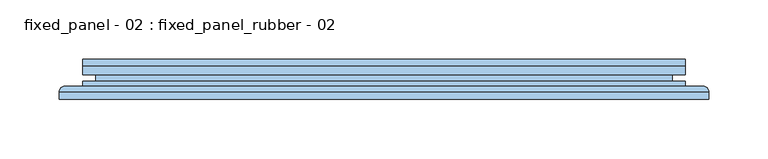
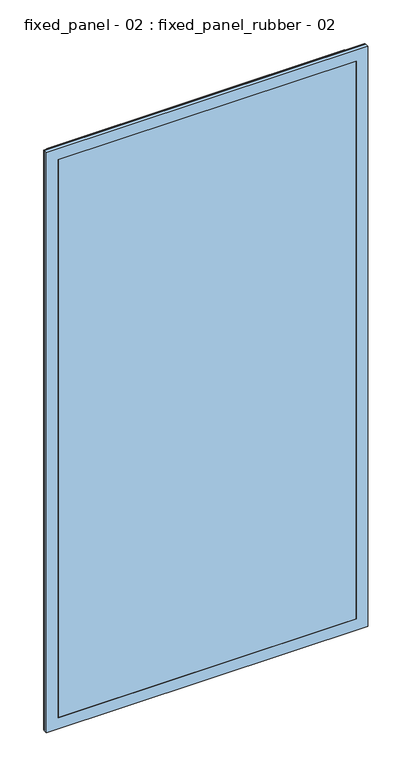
"""IFC4 building model written with IfcOpenShell, lengths in millimetres: window geometry, fixed_panel - 02 : fixed_panel_rubber - 02."""

from ifc_helpers import new_model, si_unit, frame, origin, place, context, project, spatial, polyline, ellipse_curve, outline, extrude, faceted_brep, source, transform, mapped, element, save
from ifc_brep_helpers import plane_surface, cylinder_surface, advanced_brep


def fixed_panel_02_fixed_panel_rubber_02_d23046c7(model_context):
    return source(origin(), model_context, "Body", "SolidModel", [
        advanced_brep(
        [(254.9999306, -27.9878211, 989.9842035), (259.9999306, -22.9878211, 994.9842035), (259.9999306, -22.9878211, -25.0), (254.9999306, -27.9878211, -20.0), (269.9976085, -22.9878211, -34.9976779), (-269.9976085, -22.9878211, -34.9976779), (-269.9976085, -22.9878211, 1004.9818814), (269.9976085, -22.9878211, 1004.9818814), (-259.9999306, -22.9878211, 994.9842035), (-259.9999306, -22.9878211, -25.0), (-254.9999306, -27.9878211, -20.0), (254.9999306, -34.0, 989.9842035), (254.9999306, -34.0, -20.0), (-254.9999306, -34.0, -20.0), (274.9932841, -34.0, 1009.977557), (-274.9932841, -34.0, 1009.977557), (-274.9932841, -34.0, -39.9933535), (274.9932841, -34.0, -39.9933535), (-254.9999306, -34.0, 989.9842035), (274.9932841, -27.9834967, 1009.977557), (274.9932841, -27.9834967, -39.9933535), (-274.9932841, -27.9834967, -39.9933535), (-254.9999306, -27.9878211, 989.9842035), (-274.9932841, -27.9834967, 1009.977557)],
        [
            (0, 1, ellipse_curve(frame((259.9999306, -27.9878211, 994.9842035), z_axis=(0.7071067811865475, 0.0, -0.7071067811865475), x_axis=(0.7071067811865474, 0.0, 0.7071067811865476)), 7.0710678, 5.0)),
            (1, 2),
            (2, 3, ellipse_curve(frame((259.9999306, -27.9878211, -25.0), z_axis=(0.7071067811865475, 0.0, 0.7071067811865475), x_axis=(-0.7071067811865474, 0.0, 0.7071067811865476)), 7.0710678, 5.0)),
            (3, 0),
            (4, 5),
            (5, 6),
            (6, 7),
            (7, 4),
            (1, 8),
            (8, 9),
            (9, 2),
            (9, 10, ellipse_curve(frame((-259.9999306, -27.9878211, -25.0), z_axis=(0.7071067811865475, 0.0, -0.7071067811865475), x_axis=(0.7071067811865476, 0.0, 0.7071067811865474)), 7.0710678, 5.0)),
            (10, 3),
            (11, 0),
            (3, 12),
            (12, 11),
            (10, 13),
            (13, 12),
            (14, 15),
            (15, 16),
            (16, 17),
            (17, 14),
            (13, 18),
            (18, 11),
            (19, 14),
            (17, 20),
            (20, 19),
            (16, 21),
            (21, 20),
            (7, 19, ellipse_curve(frame((269.9976085, -27.9834967, 1004.9818814), z_axis=(0.7071067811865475, 0.0, -0.7071067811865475), x_axis=(0.7071067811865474, 0.0, 0.7071067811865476)), 7.0649521, 4.9956756)),
            (20, 4, ellipse_curve(frame((269.9976085, -27.9834967, -34.9976779), z_axis=(0.7071067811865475, 0.0, 0.7071067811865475), x_axis=(-0.7071067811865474, 0.0, 0.7071067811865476)), 7.0649521, 4.9956756)),
            (21, 5, ellipse_curve(frame((-269.9976085, -27.9834967, -34.9976779), z_axis=(0.7071067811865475, 0.0, -0.7071067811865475), x_axis=(0.7071067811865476, 0.0, 0.7071067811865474)), 7.0649521, 4.9956756)),
            (8, 22, ellipse_curve(frame((-259.9999306, -27.9878211, 994.9842035), z_axis=(-0.7071067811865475, 0.0, -0.7071067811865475), x_axis=(0.7071067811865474, 0.0, -0.7071067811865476)), 7.0710678, 5.0)),
            (22, 10),
            (22, 18),
            (15, 23),
            (23, 21),
            (23, 6, ellipse_curve(frame((-269.9976085, -27.9834967, 1004.9818814), z_axis=(-0.7071067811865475, 0.0, -0.7071067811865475), x_axis=(0.7071067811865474, 0.0, -0.7071067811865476)), 7.0649521, 4.9956756)),
            (0, 22),
            (19, 23),
        ],
        [
            cylinder_surface(frame((259.9999306, -27.9878211, 989.9842035), z_axis=(0.0, 0.0, 1.0), x_axis=(1.0, 0.0, 0.0)), 5.0),
            plane_surface(frame((-269.9976085, -22.9878211, 1004.9818814), z_axis=(0.0, 1.0, 0.0), x_axis=(1.0, 0.0, 0.0))),
            cylinder_surface(frame((254.9999306, -27.9878211, -25.0), z_axis=(1.0, 0.0, 0.0), x_axis=(0.0, 0.0, -1.0)), 5.0),
            plane_surface(frame((254.9999306, -27.9878211, 989.9842035), z_axis=(-1.0, 0.0, 0.0), x_axis=(0.0, 0.0, -1.0))),
            plane_surface(frame((254.9999306, -27.9878211, -20.0), z_axis=(0.0, 0.0, 1.0), x_axis=(-1.0, 0.0, 0.0))),
            plane_surface(frame((-254.9999306, -34.0, 989.9842035), z_axis=(0.0, -1.0, 0.0), x_axis=(1.0, 0.0, 0.0))),
            plane_surface(frame((274.9932841, -34.0, 1009.977557), z_axis=(1.0, 0.0, 0.0), x_axis=(0.0, 0.0, -1.0))),
            plane_surface(frame((274.9932841, -34.0, -39.9933535), z_axis=(0.0, 0.0, -1.0), x_axis=(-1.0, 0.0, 0.0))),
            cylinder_surface(frame((269.9976085, -27.9834967, 989.9842035), z_axis=(0.0, 0.0, 1.0), x_axis=(1.0, 0.0, 0.0)), 4.9956756),
            cylinder_surface(frame((254.9999306, -27.9834967, -34.9976779), z_axis=(1.0, 0.0, 0.0), x_axis=(0.0, 0.0, -1.0)), 4.9956756),
            cylinder_surface(frame((-259.9999306, -27.9878211, -20.0), z_axis=(0.0, 0.0, -1.0), x_axis=(-1.0, 0.0, 0.0)), 5.0),
            plane_surface(frame((-254.9999306, -27.9878211, -20.0), z_axis=(1.0, 0.0, 0.0), x_axis=(0.0, 0.0, 1.0))),
            plane_surface(frame((-274.9932841, -34.0, -39.9933535), z_axis=(-1.0, 0.0, 0.0), x_axis=(0.0, 0.0, 1.0))),
            cylinder_surface(frame((-269.9976085, -27.9834967, -20.0), z_axis=(0.0, 0.0, -1.0), x_axis=(-1.0, 0.0, 0.0)), 4.9956756),
            cylinder_surface(frame((-254.9999306, -27.9878211, 994.9842035), z_axis=(-1.0, 0.0, 0.0), x_axis=(0.0, 0.0, 1.0)), 5.0),
            plane_surface(frame((-254.9999306, -27.9878211, 989.9842035), z_axis=(0.0, 0.0, -1.0), x_axis=(1.0, 0.0, 0.0))),
            plane_surface(frame((-274.9932841, -34.0, 1009.977557), z_axis=(0.0, 0.0, 1.0), x_axis=(1.0, 0.0, 0.0))),
            cylinder_surface(frame((-254.9999306, -27.9834967, 1004.9818814), z_axis=(-1.0, 0.0, 0.0), x_axis=(0.0, 0.0, 1.0)), 4.9956756),
        ],
        [
            (0, [[1, 2, 3, 4]]),
            (1, [[5, 6, 7, 8], [9, 10, 11, -2]]),
            (2, [[-3, -11, 12, 13]]),
            (3, [[14, -4, 15, 16]]),
            (4, [[-15, -13, 17, 18]]),
            (5, [[19, 20, 21, 22], [-18, 23, 24, -16]]),
            (6, [[25, -22, 26, 27]]),
            (7, [[-26, -21, 28, 29]]),
            (8, [[30, -27, 31, -8]]),
            (9, [[-31, -29, 32, -5]]),
            (10, [[-12, -10, 33, 34]]),
            (11, [[-17, -34, 35, -23]]),
            (12, [[-28, -20, 36, 37]]),
            (13, [[-32, -37, 38, -6]]),
            (14, [[-33, -9, -1, 39]]),
            (15, [[-35, -39, -14, -24]]),
            (16, [[-36, -19, -25, 40]]),
            (17, [[-38, -40, -30, -7]]),
        ],
    ),
        faceted_brep([(228.9999306, -26.0, 963.9842035), (228.9999306, -6.0, 963.9842035), (228.9999306, -6.0, 6.0), (228.9999306, -26.0, 6.0), (254.9999306, -6.0, -20.0), (-254.9999306, -6.0, -20.0), (-254.9999306, -6.0, 989.9842035), (254.9999306, -6.0, 989.9842035), (-228.9999306, -6.0, 963.9842035), (-228.9999306, -6.0, 6.0), (-228.9999306, -26.0, 6.0), (254.9999306, -26.0, 989.9842035), (-254.9999306, -26.0, 989.9842035), (-254.9999306, -26.0, -20.0), (254.9999306, -26.0, -20.0), (-228.9999306, -26.0, 963.9842035), (254.9999306, -18.8, 989.9842035), (254.9999306, -18.8, -20.0), (-254.9999306, -18.8, -20.0), (-254.9999306, -18.8, 989.9842035), (243.9999306, -18.8, 978.9842035), (-243.9999306, -18.8, 978.9842035), (-243.9999306, -18.8, -9.0), (243.9999306, -18.8, -9.0), (243.9999306, -13.2, 978.9842035), (243.9999306, -13.2, -9.0), (-243.9999306, -13.2, -9.0), (254.9999306, -13.2, 989.9842035), (-254.9999306, -13.2, 989.9842035), (-254.9999306, -13.2, -20.0), (254.9999306, -13.2, -20.0), (-243.9999306, -13.2, 978.9842035)], [[[0, 1, 2, 3]], [[4, 5, 6, 7], [1, 8, 9, 2]], [[3, 2, 9, 10]], [[11, 12, 13, 14], [3, 10, 15, 0]], [[16, 11, 14, 17]], [[17, 14, 13, 18]], [[17, 18, 19, 16], [20, 21, 22, 23]], [[24, 20, 23, 25]], [[25, 23, 22, 26]], [[27, 28, 29, 30], [25, 26, 31, 24]], [[7, 27, 30, 4]], [[4, 30, 29, 5]], [[10, 9, 8, 15]], [[18, 13, 12, 19]], [[26, 22, 21, 31]], [[5, 29, 28, 6]], [[15, 8, 1, 0]], [[19, 12, 11, 16]], [[31, 21, 20, 24]], [[6, 28, 27, 7]]]),
        extrude(outline(polyline([(254.9999306, -34.0), (-254.9999306, -34.0), (-254.9999306, -26.0), (254.9999306, -26.0), (254.9999306, -34.0)])), frame((0.0, 0.0, -20.0), z_axis=(0.0, 0.0, 1.0), x_axis=(1.0, 0.0, 0.0)), (0.0, 0.0, 1.0), 1009.9842035),
        extrude(outline(polyline([(254.9999306, -6.0), (-254.9999306, -6.0), (-254.9999306, 0.0), (254.9999306, 0.0), (254.9999306, -6.0)])), frame((0.0, 0.0, -20.0), z_axis=(0.0, 0.0, 1.0), x_axis=(1.0, 0.0, 0.0)), (0.0, 0.0, 1.0), 1009.9842035),
    ])


if __name__ == "__main__":
    model = new_model("IFC4")
    model_context = context("Model", 3, world=origin())
    ifc_project = project(units=[si_unit("LENGTHUNIT", "METRE", prefix="MILLI")], contexts=[model_context])
    site = spatial("IfcSite", under=ifc_project)
    building = spatial("IfcBuilding", under=site)
    placement = place(None, origin())
    fixed_panel_02_fixed_panel_rubber_02_shape = fixed_panel_02_fixed_panel_rubber_02_d23046c7(model_context)
    element("IfcWindow", 1, ObjectType="fixed_panel - 02 : fixed_panel_rubber - 02", at=placement, inside=building, context=model_context, shape_type="MappedRepresentation", body=[
        mapped(fixed_panel_02_fixed_panel_rubber_02_shape, transform((0.0, 0.0, 0.0), x_axis=(1.0, 0.0, 0.0), y_axis=(0.0, 1.0, 0.0), z_axis=(0.0, 0.0, 1.0))),
    ])
    save(model, "model.ifc")
